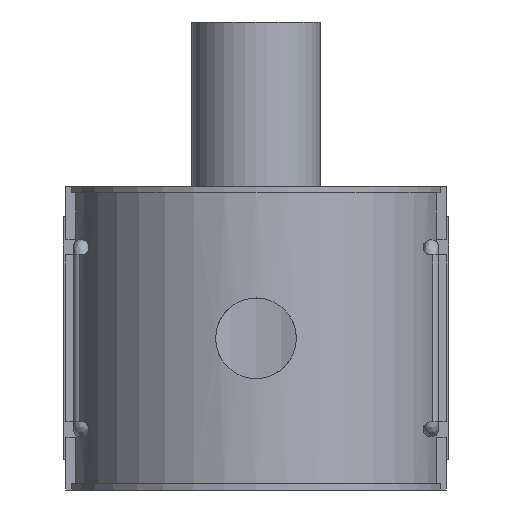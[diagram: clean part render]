
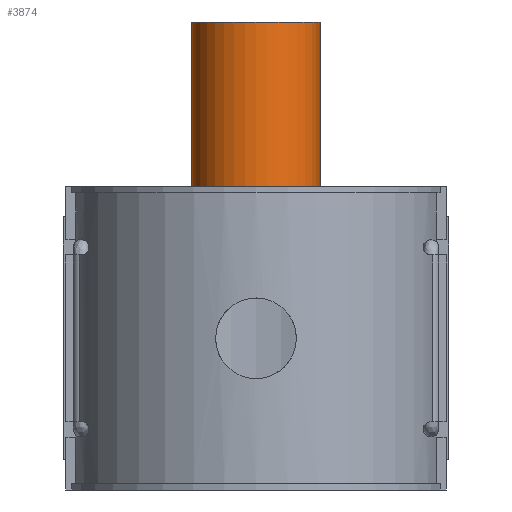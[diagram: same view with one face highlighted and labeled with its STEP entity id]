
A CAD part, front view. The second image highlights one B-rep face of the part: STEP entity #3874.
In plain terms, the highlighted cylindrical face has radius 25 mm (diameter 50 mm), a full revolution.
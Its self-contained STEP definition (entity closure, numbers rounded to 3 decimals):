
#336=CIRCLE('',#4235,25.);
#337=CIRCLE('',#4236,25.);
#338=CIRCLE('',#4237,25.);
#339=CIRCLE('',#4238,25.);
#579=FACE_OUTER_BOUND('',#822,.T.);
#822=EDGE_LOOP('',(#3588,#3589,#3590,#3591,#3592,#3593));
#1143=LINE('',#8208,#1460);
#1460=VECTOR('',#5237,25.);
#1911=VERTEX_POINT('',#8203);
#1912=VERTEX_POINT('',#8204);
#1913=VERTEX_POINT('',#8207);
#1914=VERTEX_POINT('',#8209);
#2472=EDGE_CURVE('',#1911,#1912,#336,.T.);
#2473=EDGE_CURVE('',#1912,#1911,#337,.T.);
#2474=EDGE_CURVE('',#1912,#1913,#1143,.T.);
#2475=EDGE_CURVE('',#1913,#1914,#338,.T.);
#2476=EDGE_CURVE('',#1914,#1913,#339,.T.);
#3588=ORIENTED_EDGE('',*,*,#2472,.F.);
#3589=ORIENTED_EDGE('',*,*,#2473,.F.);
#3590=ORIENTED_EDGE('',*,*,#2474,.T.);
#3591=ORIENTED_EDGE('',*,*,#2475,.T.);
#3592=ORIENTED_EDGE('',*,*,#2476,.T.);
#3593=ORIENTED_EDGE('',*,*,#2474,.F.);
#3658=CYLINDRICAL_SURFACE('',#4234,25.);
#3874=ADVANCED_FACE('',(#579),#3658,.T.);
#4234=AXIS2_PLACEMENT_3D('',#8202,#5231,#5232);
#4235=AXIS2_PLACEMENT_3D('',#8205,#5233,#5234);
#4236=AXIS2_PLACEMENT_3D('',#8206,#5235,#5236);
#4237=AXIS2_PLACEMENT_3D('',#8210,#5238,#5239);
#4238=AXIS2_PLACEMENT_3D('',#8211,#5240,#5241);
#5231=DIRECTION('center_axis',(0.,0.,1.));
#5232=DIRECTION('ref_axis',(0.,-1.,0.));
#5233=DIRECTION('center_axis',(0.,0.,1.));
#5234=DIRECTION('ref_axis',(1.,0.,0.));
#5235=DIRECTION('center_axis',(0.,0.,1.));
#5236=DIRECTION('ref_axis',(1.,0.,0.));
#5237=DIRECTION('',(0.,0.,-1.));
#5238=DIRECTION('center_axis',(0.,0.,1.));
#5239=DIRECTION('ref_axis',(1.,0.,0.));
#5240=DIRECTION('center_axis',(0.,0.,1.));
#5241=DIRECTION('ref_axis',(1.,0.,0.));
#8202=CARTESIAN_POINT('Origin',(0.,119.,61.5));
#8203=CARTESIAN_POINT('',(0.,94.,123.));
#8204=CARTESIAN_POINT('',(0.,144.,123.));
#8205=CARTESIAN_POINT('Origin',(0.,119.,123.));
#8206=CARTESIAN_POINT('Origin',(0.,119.,123.));
#8207=CARTESIAN_POINT('',(0.,144.,0.));
#8208=CARTESIAN_POINT('',(0.,144.,61.5));
#8209=CARTESIAN_POINT('',(0.,94.,0.));
#8210=CARTESIAN_POINT('Origin',(0.,119.,0.));
#8211=CARTESIAN_POINT('Origin',(0.,119.,0.));
